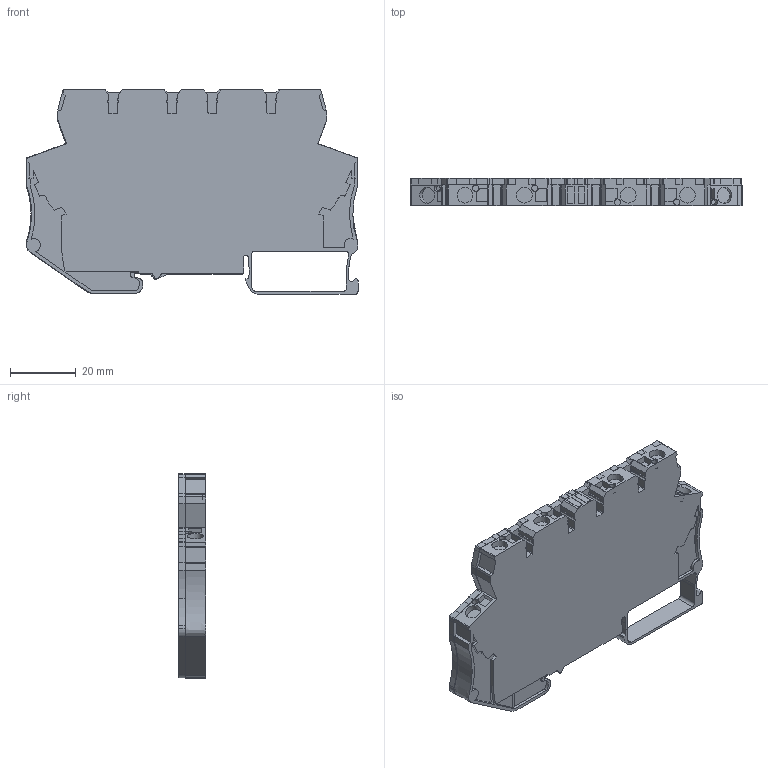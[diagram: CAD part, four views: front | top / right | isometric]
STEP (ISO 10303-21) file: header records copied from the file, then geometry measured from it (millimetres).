
FILE_DESCRIPTION(('STEP AP214'), '1');
FILE_NAME('NLS-1R12 äëÿ ñòïêÂÂÂÂÂââââââ', '', ('UNSPECIFIED'), ('UNSPECIFIED'), 'C3D Converter', 'C3D Toolkit', '');
FILE_SCHEMA(('AUTOMOTIVE_DESIGN { 1 0 10303 214 3 1 1}'));
Length unit declared in the file: millimetre
Bounding box: 100.78 x 8.22 x 62.17 mm (x, y, z)
Volume: 22792.4 mm3; surface area: 25635 mm2
Topology: 1 solids, 9 shells, 3907 faces, 10788 edges, 7175 vertices
Faces by surface type: plane 2080, extrusion 1751, cylinder 76
Full cylindrical faces by diameter (mm): 1 x2, 1.9 x6, 2 x5, 4.8 x6
Entity records: 171482 total; most frequent: CARTESIAN_POINT 47359, ORIENTED_EDGE 21536, DIRECTION 13429, EDGE_CURVE 10768, VECTOR 8809, VERTEX_POINT 7174, LINE 7058, B_SPLINE_CURVE_WITH_KNOTS 5308
